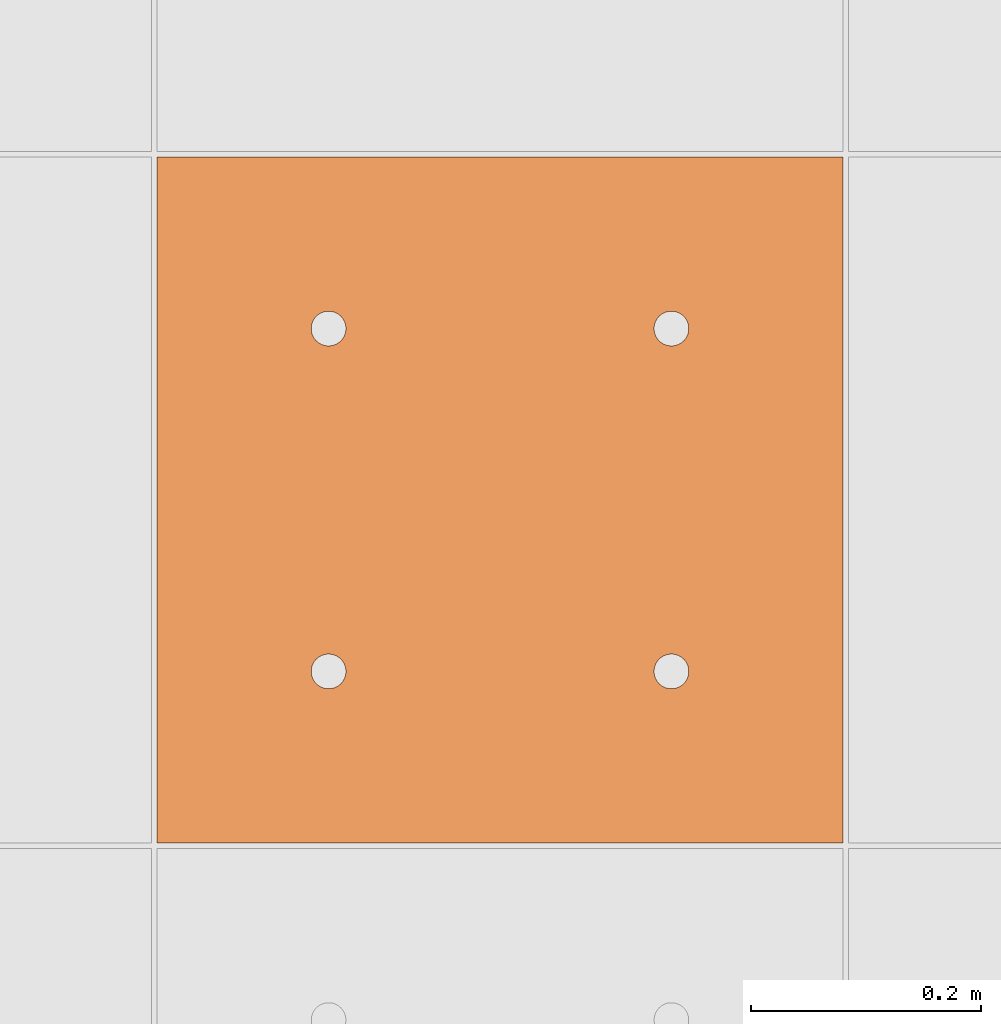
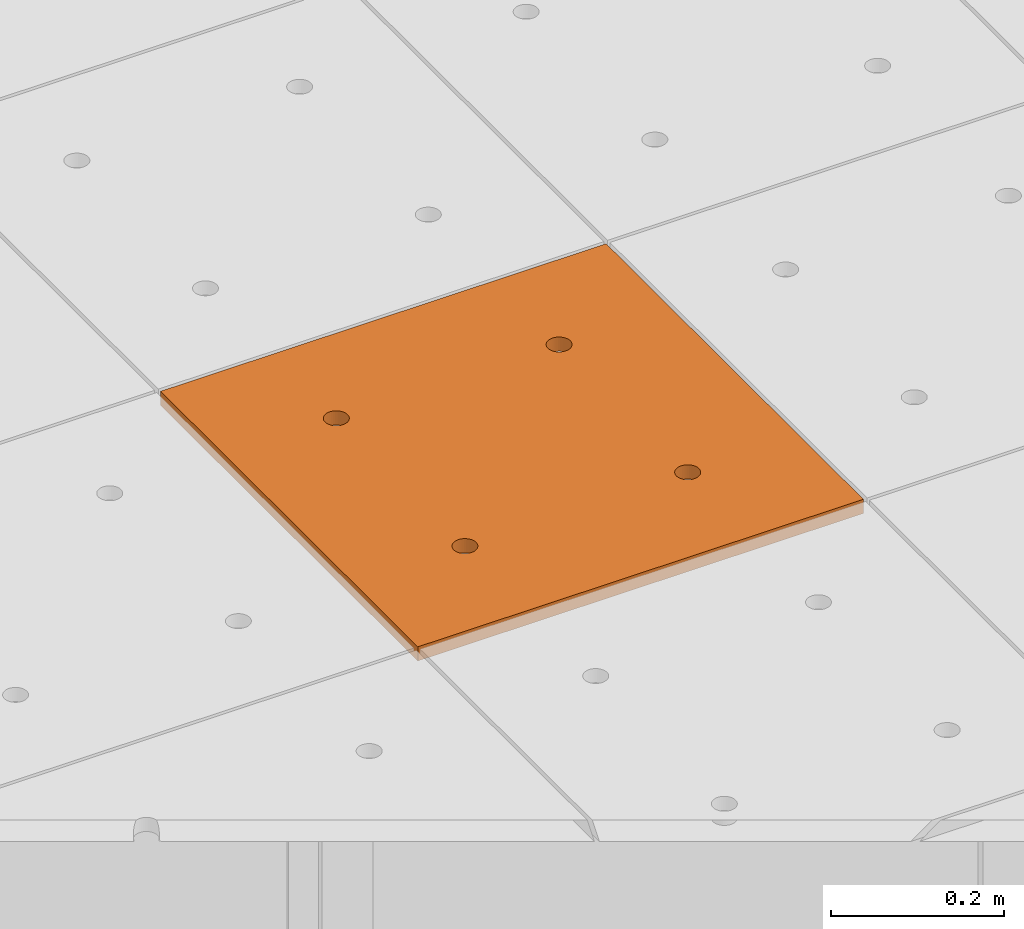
# One storey, part 308 of 338: 1 proxy, 1 element without a shape of its own.
"""IFC2X3 building model written with IfcOpenShell, lengths in millimetres."""

from ifc_helpers import new_model, entity, si_unit, converted_unit, derived_unit, money_unit, direction, frame, origin_with_axes, place, context, subcontext, project, spatial, faceted_brep, source, transform, mapped, material, type_object, type_shapes, element, aggregate, save


model = new_model("IFC2X3")

# Units and contexts
model_context = context("Model", 3, precision=0.01, world=origin_with_axes(), true_north=direction((0.0, 1.0)))
plan_context = context("Plan", 3, precision=0.01, world=origin_with_axes(), true_north=direction((0.0, 1.0)))
body_context = subcontext(model_context, "Body", "Model", "MODEL_VIEW")
ifc_project = project(units=[si_unit("LENGTHUNIT", "METRE", prefix="MILLI"), si_unit("AREAUNIT", "SQUARE_METRE"), si_unit("VOLUMEUNIT", "CUBIC_METRE"), converted_unit("PLANEANGLEUNIT", "DEGREE", entity("IfcPlaneAngleMeasure", 0.0174532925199), si_unit("PLANEANGLEUNIT", "RADIAN"), dimensions=[0, 0, 0, 0, 0, 0, 0]), money_unit("EUR"), converted_unit("TIMEUNIT", "Year", entity("IfcTimeMeasure", 31556926.0), si_unit("TIMEUNIT", "SECOND"), dimensions=[0, 0, 1, 0, 0, 0, 0]), si_unit("MASSUNIT", "GRAM", prefix="KILO"), si_unit("THERMODYNAMICTEMPERATUREUNIT", "DEGREE_CELSIUS"), si_unit("LUMINOUSINTENSITYUNIT", "LUMEN"), si_unit("ENERGYUNIT", "JOULE", prefix="MEGA"), derived_unit("THERMALCONDUCTANCEUNIT", [(si_unit("POWERUNIT", "WATT"), 1), (si_unit("LENGTHUNIT", "METRE"), -1), (si_unit("THERMODYNAMICTEMPERATUREUNIT", "KELVIN"), -1)]), derived_unit("SPECIFICHEATCAPACITYUNIT", [(si_unit("ENERGYUNIT", "JOULE"), 1), (si_unit("MASSUNIT", "GRAM", prefix="KILO"), -1), (si_unit("THERMODYNAMICTEMPERATUREUNIT", "KELVIN"), -1)]), derived_unit("MASSDENSITYUNIT", [(si_unit("MASSUNIT", "GRAM", prefix="KILO"), 1), (si_unit("VOLUMEUNIT", "CUBIC_METRE"), -1)])], contexts=[model_context, plan_context])

# Site, building, storey
site_placement = place(None, origin_with_axes())
site = spatial("IfcSite", under=ifc_project, at=site_placement, Name="Fortuinstraat Woensdrecht", CompositionType="ELEMENT")
building_placement = place(site_placement, origin_with_axes())
building = spatial("IfcBuilding", under=site, at=building_placement, Name="IKC Fortuna", CompositionType="ELEMENT")
storey_placement = place(building_placement, origin_with_axes())
storey = spatial("IfcBuildingStorey", under=building, at=storey_placement, Name="00 begane grond", CompositionType="ELEMENT", Elevation=0.0)

# Covering, proxy
covering_type = type_object("IfcCoveringType", Name="Curtain Wall Type", PredefinedType="CEILING")
covering_placement = place(storey_placement, frame((24394.3550152, 31482.3495284, 3210.0), z_axis=(0.0, 0.0, 1.0), x_axis=(1.0, 0.0, 0.0)))
covering = element("IfcCovering", 1, at=covering_placement, inside=storey, type_object=covering_type, Name="45_Plafondafwerking_P01", PredefinedType="CEILING")
ifc_material = material(Name="Gipsplaat")
building_element_proxy_type = type_object("IfcBuildingElementProxyType", Name="Main Panel 600 x 600 x 20", PredefinedType="NOTDEFINED")
shared_shape = source(origin_with_axes(), body_context, "Body", "Brep", [
    faceted_brep([(2.49999999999, 2.49999999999, -10.0), (300.0, 2.49999999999, -10.0), (300.0, 2.49999999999, 10.0), (2.49999999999, 2.49999999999, 10.0), (2.49999999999, 300.0, -10.0), (2.49999999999, 597.5, -10.0), (300.0, 597.5, -10.0), (597.5, 597.5, -10.0), (597.5, 300.0, -10.0), (597.5, 2.49999999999, -10.0), (166.25, 450.06232995, -10.0), (165.79423259, 452.64711538, -10.0), (164.896546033, 455.11348892, -10.0), (163.58421608, 457.38651108, -10.0), (161.897117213, 459.39711721, -10.0), (159.886511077, 461.08421608, -10.0), (157.613488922, 462.39654603, -10.0), (155.147115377, 463.29423259, -10.0), (152.562329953, 463.75, -10.0), (149.937670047, 463.75, -10.0), (147.352884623, 463.29423259, -10.0), (144.886511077, 462.39654603, -10.0), (142.613488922, 461.08421608, -10.0), (140.602882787, 459.39711721, -10.0), (138.91578392, 457.38651108, -10.0), (137.603453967, 455.11348892, -10.0), (136.705767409, 452.64711538, -10.0), (136.25, 450.06232995, -10.0), (136.25, 448.75, -10.0), (136.25, 447.43767005, -10.0), (136.705767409, 444.85288462, -10.0), (137.603453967, 442.38651108, -10.0), (138.91578392, 440.11348892, -10.0), (140.602882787, 438.10288279, -10.0), (142.613488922, 436.41578392, -10.0), (144.886511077, 435.10345397, -10.0), (147.352884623, 434.20576741, -10.0), (149.937670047, 433.75, -10.0), (152.562329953, 433.75, -10.0), (155.147115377, 434.20576741, -10.0), (157.613488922, 435.10345397, -10.0), (159.886511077, 436.41578392, -10.0), (161.897117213, 438.10288279, -10.0), (163.58421608, 440.11348892, -10.0), (164.896546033, 442.38651108, -10.0), (165.79423259, 444.85288462, -10.0), (166.25, 447.43767005, -10.0), (463.75, 450.06232995, -10.0), (463.29423259, 452.64711538, -10.0), (462.396546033, 455.11348892, -10.0), (461.08421608, 457.38651108, -10.0), (459.397117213, 459.39711721, -10.0), (457.386511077, 461.08421608, -10.0), (455.113488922, 462.39654603, -10.0), (452.647115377, 463.29423259, -10.0), (450.062329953, 463.75, -10.0), (447.437670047, 463.75, -10.0), (444.852884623, 463.29423259, -10.0), (442.386511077, 462.39654603, -10.0), (440.113488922, 461.08421608, -10.0), (438.102882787, 459.39711721, -10.0), (436.41578392, 457.38651108, -10.0), (435.103453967, 455.11348892, -10.0), (434.205767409, 452.64711538, -10.0), (433.75, 450.06232995, -10.0), (433.75, 448.75, -10.0), (433.75, 447.43767005, -10.0), (434.205767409, 444.85288462, -10.0), (435.103453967, 442.38651108, -10.0), (436.41578392, 440.11348892, -10.0), (438.102882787, 438.10288279, -10.0), (440.113488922, 436.41578392, -10.0), (442.386511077, 435.10345397, -10.0), (444.852884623, 434.20576741, -10.0), (447.437670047, 433.75, -10.0), (450.062329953, 433.75, -10.0), (452.647115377, 434.20576741, -10.0), (455.113488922, 435.10345397, -10.0), (457.386511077, 436.41578392, -10.0), (459.397117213, 438.10288279, -10.0), (461.08421608, 440.11348892, -10.0), (462.396546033, 442.38651108, -10.0), (463.29423259, 444.85288462, -10.0), (463.75, 447.43767005, -10.0), (463.75, 152.56232995, -10.0), (463.29423259, 155.14711538, -10.0), (462.396546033, 157.61348892, -10.0), (461.08421608, 159.88651108, -10.0), (459.397117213, 161.89711721, -10.0), (457.386511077, 163.58421608, -10.0), (455.113488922, 164.89654603, -10.0), (452.647115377, 165.79423259, -10.0), (450.062329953, 166.25, -10.0), (447.437670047, 166.25, -10.0), (444.852884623, 165.79423259, -10.0), (442.386511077, 164.89654603, -10.0), (440.113488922, 163.58421608, -10.0), (438.102882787, 161.89711721, -10.0), (436.41578392, 159.88651108, -10.0), (435.103453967, 157.61348892, -10.0), (434.205767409, 155.14711538, -10.0), (433.75, 152.56232995, -10.0), (433.75, 151.25, -10.0), (433.75, 149.93767005, -10.0), (434.205767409, 147.35288462, -10.0), (435.103453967, 144.88651108, -10.0), (436.41578392, 142.61348892, -10.0), (438.102882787, 140.60288279, -10.0), (440.113488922, 138.91578392, -10.0), (442.386511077, 137.60345397, -10.0), (444.852884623, 136.70576741, -10.0), (447.437670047, 136.25, -10.0), (450.062329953, 136.25, -10.0), (452.647115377, 136.70576741, -10.0), (455.113488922, 137.60345397, -10.0), (457.386511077, 138.91578392, -10.0), (459.397117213, 140.60288279, -10.0), (461.08421608, 142.61348892, -10.0), (462.396546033, 144.88651108, -10.0), (463.29423259, 147.35288462, -10.0), (463.75, 149.93767005, -10.0), (166.25, 152.56232995, -10.0), (165.79423259, 155.14711538, -10.0), (164.896546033, 157.61348892, -10.0), (163.58421608, 159.88651108, -10.0), (161.897117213, 161.89711721, -10.0), (159.886511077, 163.58421608, -10.0), (157.613488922, 164.89654603, -10.0), (155.147115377, 165.79423259, -10.0), (152.562329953, 166.25, -10.0), (149.937670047, 166.25, -10.0), (147.352884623, 165.79423259, -10.0), (144.886511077, 164.89654603, -10.0), (142.613488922, 163.58421608, -10.0), (140.602882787, 161.89711721, -10.0), (138.91578392, 159.88651108, -10.0), (137.603453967, 157.61348892, -10.0), (136.705767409, 155.14711538, -10.0), (136.25, 152.56232995, -10.0), (136.25, 151.25, -10.0), (136.25, 149.93767005, -10.0), (136.705767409, 147.35288462, -10.0), (137.603453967, 144.88651108, -10.0), (138.91578392, 142.61348892, -10.0), (140.602882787, 140.60288279, -10.0), (142.613488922, 138.91578392, -10.0), (144.886511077, 137.60345397, -10.0), (147.352884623, 136.70576741, -10.0), (149.937670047, 136.25, -10.0), (152.562329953, 136.25, -10.0), (155.147115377, 136.70576741, -10.0), (157.613488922, 137.60345397, -10.0), (159.886511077, 138.91578392, -10.0), (161.897117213, 140.60288279, -10.0), (163.58421608, 142.61348892, -10.0), (164.896546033, 144.88651108, -10.0), (165.79423259, 147.35288462, -10.0), (166.25, 149.93767005, -10.0), (597.5, 2.49999999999, 10.0), (597.5, 300.0, 10.0), (597.5, 597.5, 10.0), (300.0, 597.5, 10.0), (2.49999999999, 597.5, 10.0), (2.49999999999, 300.0, 10.0), (166.25, 450.06232995, 10.0), (166.25, 447.43767005, 10.0), (165.79423259, 444.85288462, 10.0), (164.896546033, 442.38651108, 10.0), (163.58421608, 440.11348892, 10.0), (161.897117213, 438.10288279, 10.0), (159.886511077, 436.41578392, 10.0), (157.613488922, 435.10345397, 10.0), (155.147115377, 434.20576741, 10.0), (152.562329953, 433.75, 10.0), (149.937670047, 433.75, 10.0), (147.352884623, 434.20576741, 10.0), (144.886511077, 435.10345397, 10.0), (142.613488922, 436.41578392, 10.0), (140.602882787, 438.10288279, 10.0), (138.91578392, 440.11348892, 10.0), (137.603453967, 442.38651108, 10.0), (136.705767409, 444.85288462, 10.0), (136.25, 447.43767005, 10.0), (136.25, 448.75, 10.0), (136.25, 450.06232995, 10.0), (136.705767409, 452.64711538, 10.0), (137.603453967, 455.11348892, 10.0), (138.91578392, 457.38651108, 10.0), (140.602882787, 459.39711721, 10.0), (142.613488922, 461.08421608, 10.0), (144.886511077, 462.39654603, 10.0), (147.352884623, 463.29423259, 10.0), (149.937670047, 463.75, 10.0), (152.562329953, 463.75, 10.0), (155.147115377, 463.29423259, 10.0), (157.613488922, 462.39654603, 10.0), (159.886511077, 461.08421608, 10.0), (161.897117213, 459.39711721, 10.0), (163.58421608, 457.38651108, 10.0), (164.896546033, 455.11348892, 10.0), (165.79423259, 452.64711538, 10.0), (463.75, 450.06232995, 10.0), (463.75, 447.43767005, 10.0), (463.29423259, 444.85288462, 10.0), (462.396546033, 442.38651108, 10.0), (461.08421608, 440.11348892, 10.0), (459.397117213, 438.10288279, 10.0), (457.386511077, 436.41578392, 10.0), (455.113488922, 435.10345397, 10.0), (452.647115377, 434.20576741, 10.0), (450.062329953, 433.75, 10.0), (447.437670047, 433.75, 10.0), (444.852884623, 434.20576741, 10.0), (442.386511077, 435.10345397, 10.0), (440.113488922, 436.41578392, 10.0), (438.102882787, 438.10288279, 10.0), (436.41578392, 440.11348892, 10.0), (435.103453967, 442.38651108, 10.0), (434.205767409, 444.85288462, 10.0), (433.75, 447.43767005, 10.0), (433.75, 448.75, 10.0), (433.75, 450.06232995, 10.0), (434.205767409, 452.64711538, 10.0), (435.103453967, 455.11348892, 10.0), (436.41578392, 457.38651108, 10.0), (438.102882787, 459.39711721, 10.0), (440.113488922, 461.08421608, 10.0), (442.386511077, 462.39654603, 10.0), (444.852884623, 463.29423259, 10.0), (447.437670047, 463.75, 10.0), (450.062329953, 463.75, 10.0), (452.647115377, 463.29423259, 10.0), (455.113488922, 462.39654603, 10.0), (457.386511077, 461.08421608, 10.0), (459.397117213, 459.39711721, 10.0), (461.08421608, 457.38651108, 10.0), (462.396546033, 455.11348892, 10.0), (463.29423259, 452.64711538, 10.0), (463.75, 152.56232995, 10.0), (463.75, 149.93767005, 10.0), (463.29423259, 147.35288462, 10.0), (462.396546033, 144.88651108, 10.0), (461.08421608, 142.61348892, 10.0), (459.397117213, 140.60288279, 10.0), (457.386511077, 138.91578392, 10.0), (455.113488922, 137.60345397, 10.0), (452.647115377, 136.70576741, 10.0), (450.062329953, 136.25, 10.0), (447.437670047, 136.25, 10.0), (444.852884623, 136.70576741, 10.0), (442.386511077, 137.60345397, 10.0), (440.113488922, 138.91578392, 10.0), (438.102882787, 140.60288279, 10.0), (436.41578392, 142.61348892, 10.0), (435.103453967, 144.88651108, 10.0), (434.205767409, 147.35288462, 10.0), (433.75, 149.93767005, 10.0), (433.75, 151.25, 10.0), (433.75, 152.56232995, 10.0), (434.205767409, 155.14711538, 10.0), (435.103453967, 157.61348892, 10.0), (436.41578392, 159.88651108, 10.0), (438.102882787, 161.89711721, 10.0), (440.113488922, 163.58421608, 10.0), (442.386511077, 164.89654603, 10.0), (444.852884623, 165.79423259, 10.0), (447.437670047, 166.25, 10.0), (450.062329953, 166.25, 10.0), (452.647115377, 165.79423259, 10.0), (455.113488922, 164.89654603, 10.0), (457.386511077, 163.58421608, 10.0), (459.397117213, 161.89711721, 10.0), (461.08421608, 159.88651108, 10.0), (462.396546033, 157.61348892, 10.0), (463.29423259, 155.14711538, 10.0), (166.25, 152.56232995, 10.0), (166.25, 149.93767005, 10.0), (165.79423259, 147.35288462, 10.0), (164.896546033, 144.88651108, 10.0), (163.58421608, 142.61348892, 10.0), (161.897117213, 140.60288279, 10.0), (159.886511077, 138.91578392, 10.0), (157.613488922, 137.60345397, 10.0), (155.147115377, 136.70576741, 10.0), (152.562329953, 136.25, 10.0), (149.937670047, 136.25, 10.0), (147.352884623, 136.70576741, 10.0), (144.886511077, 137.60345397, 10.0), (142.613488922, 138.91578392, 10.0), (140.602882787, 140.60288279, 10.0), (138.91578392, 142.61348892, 10.0), (137.603453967, 144.88651108, 10.0), (136.705767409, 147.35288462, 10.0), (136.25, 149.93767005, 10.0), (136.25, 151.25, 10.0), (136.25, 152.56232995, 10.0), (136.705767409, 155.14711538, 10.0), (137.603453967, 157.61348892, 10.0), (138.91578392, 159.88651108, 10.0), (140.602882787, 161.89711721, 10.0), (142.613488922, 163.58421608, 10.0), (144.886511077, 164.89654603, 10.0), (147.352884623, 165.79423259, 10.0), (149.937670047, 166.25, 10.0), (152.562329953, 166.25, 10.0), (155.147115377, 165.79423259, 10.0), (157.613488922, 164.89654603, 10.0), (159.886511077, 163.58421608, 10.0), (161.897117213, 161.89711721, 10.0), (163.58421608, 159.88651108, 10.0), (164.896546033, 157.61348892, 10.0), (165.79423259, 155.14711538, 10.0)], [[[0, 1, 2, 3]], [[0, 4, 5, 6, 7, 8, 9, 1], [10, 11, 12, 13, 14, 15, 16, 17, 18, 19, 20, 21, 22, 23, 24, 25, 26, 27, 28, 29, 30, 31, 32, 33, 34, 35, 36, 37, 38, 39, 40, 41, 42, 43, 44, 45, 46], [47, 48, 49, 50, 51, 52, 53, 54, 55, 56, 57, 58, 59, 60, 61, 62, 63, 64, 65, 66, 67, 68, 69, 70, 71, 72, 73, 74, 75, 76, 77, 78, 79, 80, 81, 82, 83], [84, 85, 86, 87, 88, 89, 90, 91, 92, 93, 94, 95, 96, 97, 98, 99, 100, 101, 102, 103, 104, 105, 106, 107, 108, 109, 110, 111, 112, 113, 114, 115, 116, 117, 118, 119, 120], [121, 122, 123, 124, 125, 126, 127, 128, 129, 130, 131, 132, 133, 134, 135, 136, 137, 138, 139, 140, 141, 142, 143, 144, 145, 146, 147, 148, 149, 150, 151, 152, 153, 154, 155, 156, 157]], [[1, 9, 158, 2]], [[3, 2, 158, 159, 160, 161, 162, 163], [164, 165, 166, 167, 168, 169, 170, 171, 172, 173, 174, 175, 176, 177, 178, 179, 180, 181, 182, 183, 184, 185, 186, 187, 188, 189, 190, 191, 192, 193, 194, 195, 196, 197, 198, 199, 200], [201, 202, 203, 204, 205, 206, 207, 208, 209, 210, 211, 212, 213, 214, 215, 216, 217, 218, 219, 220, 221, 222, 223, 224, 225, 226, 227, 228, 229, 230, 231, 232, 233, 234, 235, 236, 237], [238, 239, 240, 241, 242, 243, 244, 245, 246, 247, 248, 249, 250, 251, 252, 253, 254, 255, 256, 257, 258, 259, 260, 261, 262, 263, 264, 265, 266, 267, 268, 269, 270, 271, 272, 273, 274], [275, 276, 277, 278, 279, 280, 281, 282, 283, 284, 285, 286, 287, 288, 289, 290, 291, 292, 293, 294, 295, 296, 297, 298, 299, 300, 301, 302, 303, 304, 305, 306, 307, 308, 309, 310, 311]], [[4, 0, 3, 163]], [[5, 4, 163, 162]], [[6, 5, 162, 161]], [[7, 6, 161, 160]], [[8, 7, 160, 159]], [[9, 8, 159, 158]], [[11, 10, 164, 200]], [[12, 11, 200, 199]], [[13, 12, 199, 198]], [[14, 13, 198, 197]], [[15, 14, 197, 196]], [[16, 15, 196, 195]], [[17, 16, 195, 194]], [[18, 17, 194, 193]], [[19, 18, 193, 192]], [[20, 19, 192, 191]], [[21, 20, 191, 190]], [[22, 21, 190, 189]], [[23, 22, 189, 188]], [[24, 23, 188, 187]], [[25, 24, 187, 186]], [[26, 25, 186, 185]], [[27, 26, 185, 184]], [[28, 27, 184, 183]], [[29, 28, 183, 182]], [[30, 29, 182, 181]], [[31, 30, 181, 180]], [[32, 31, 180, 179]], [[33, 32, 179, 178]], [[34, 33, 178, 177]], [[35, 34, 177, 176]], [[36, 35, 176, 175]], [[37, 36, 175, 174]], [[38, 37, 174, 173]], [[39, 38, 173, 172]], [[40, 39, 172, 171]], [[41, 40, 171, 170]], [[42, 41, 170, 169]], [[43, 42, 169, 168]], [[44, 43, 168, 167]], [[45, 44, 167, 166]], [[46, 45, 166, 165]], [[10, 46, 165, 164]], [[48, 47, 201, 237]], [[49, 48, 237, 236]], [[50, 49, 236, 235]], [[51, 50, 235, 234]], [[52, 51, 234, 233]], [[53, 52, 233, 232]], [[54, 53, 232, 231]], [[55, 54, 231, 230]], [[56, 55, 230, 229]], [[57, 56, 229, 228]], [[58, 57, 228, 227]], [[59, 58, 227, 226]], [[60, 59, 226, 225]], [[61, 60, 225, 224]], [[62, 61, 224, 223]], [[63, 62, 223, 222]], [[64, 63, 222, 221]], [[65, 64, 221, 220]], [[66, 65, 220, 219]], [[67, 66, 219, 218]], [[68, 67, 218, 217]], [[69, 68, 217, 216]], [[70, 69, 216, 215]], [[71, 70, 215, 214]], [[72, 71, 214, 213]], [[73, 72, 213, 212]], [[74, 73, 212, 211]], [[75, 74, 211, 210]], [[76, 75, 210, 209]], [[77, 76, 209, 208]], [[78, 77, 208, 207]], [[79, 78, 207, 206]], [[80, 79, 206, 205]], [[81, 80, 205, 204]], [[82, 81, 204, 203]], [[83, 82, 203, 202]], [[47, 83, 202, 201]], [[85, 84, 238, 274]], [[86, 85, 274, 273]], [[87, 86, 273, 272]], [[88, 87, 272, 271]], [[89, 88, 271, 270]], [[90, 89, 270, 269]], [[91, 90, 269, 268]], [[92, 91, 268, 267]], [[93, 92, 267, 266]], [[94, 93, 266, 265]], [[95, 94, 265, 264]], [[96, 95, 264, 263]], [[97, 96, 263, 262]], [[98, 97, 262, 261]], [[99, 98, 261, 260]], [[100, 99, 260, 259]], [[101, 100, 259, 258]], [[102, 101, 258, 257]], [[103, 102, 257, 256]], [[104, 103, 256, 255]], [[105, 104, 255, 254]], [[106, 105, 254, 253]], [[107, 106, 253, 252]], [[108, 107, 252, 251]], [[109, 108, 251, 250]], [[110, 109, 250, 249]], [[111, 110, 249, 248]], [[112, 111, 248, 247]], [[113, 112, 247, 246]], [[114, 113, 246, 245]], [[115, 114, 245, 244]], [[116, 115, 244, 243]], [[117, 116, 243, 242]], [[118, 117, 242, 241]], [[119, 118, 241, 240]], [[120, 119, 240, 239]], [[84, 120, 239, 238]], [[122, 121, 275, 311]], [[123, 122, 311, 310]], [[124, 123, 310, 309]], [[125, 124, 309, 308]], [[126, 125, 308, 307]], [[127, 126, 307, 306]], [[128, 127, 306, 305]], [[129, 128, 305, 304]], [[130, 129, 304, 303]], [[131, 130, 303, 302]], [[132, 131, 302, 301]], [[133, 132, 301, 300]], [[134, 133, 300, 299]], [[135, 134, 299, 298]], [[136, 135, 298, 297]], [[137, 136, 297, 296]], [[138, 137, 296, 295]], [[139, 138, 295, 294]], [[140, 139, 294, 293]], [[141, 140, 293, 292]], [[142, 141, 292, 291]], [[143, 142, 291, 290]], [[144, 143, 290, 289]], [[145, 144, 289, 288]], [[146, 145, 288, 287]], [[147, 146, 287, 286]], [[148, 147, 286, 285]], [[149, 148, 285, 284]], [[150, 149, 284, 283]], [[151, 150, 283, 282]], [[152, 151, 282, 281]], [[153, 152, 281, 280]], [[154, 153, 280, 279]], [[155, 154, 279, 278]], [[156, 155, 278, 277]], [[157, 156, 277, 276]], [[121, 157, 276, 275]]]),
])
type_shapes(building_element_proxy_type, [shared_shape])
proxy_placement = place(covering_placement, frame((1800.0, 2400.0, 0.0), z_axis=(0.0, 0.0, 1.0), x_axis=(1.0, 0.0, 0.0)))
proxy = element("IfcBuildingElementProxy", 2, at=proxy_placement, type_object=building_element_proxy_type, material=ifc_material, Name="__600x634 Rockfon Krios", context=body_context, shape_type="MappedRepresentation", body=[
    mapped(shared_shape, transform((300.0, 300.0, 0.0), x_axis=(-1.0, 0.0, 0.0), y_axis=(0.0, -1.0, 0.0), z_axis=(0.0, 0.0, 1.0))),
])
aggregate(covering, [proxy])

save(model, "model.ifc")
